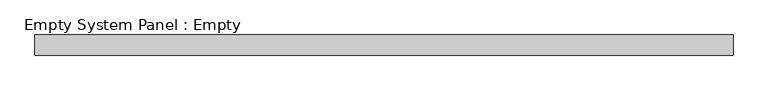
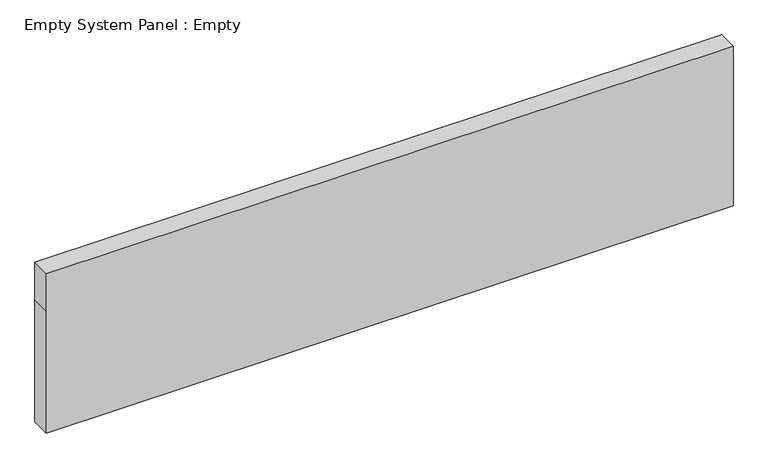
"""IFC4 building model written with IfcOpenShell, lengths in millimetres: plate geometry, Empty System Panel : Empty."""

import ifcopenshell
import ifcopenshell.guid

model = None  # the IFC model being written
_history = None  # IfcOwnerHistory: only IFC2X3 demands one
_inside = {}  # id of a spatial element -> (the spatial element, [elements in it])
_under = {}  # id of a project, library or spatial element -> (it, [spatial elements below it])
_declared = {}  # id of a project -> (the project, [libraries it declares])
_typed = {}  # id of a type object -> (the type object, [elements of that type])
_made_of = {}  # id of a material, layer set ... -> (it, [elements and type objects made of it])


def new_model(schema):
    """Start an empty IFC model of exactly this schema.

    Asked for "IFC4X3", IfcOpenShell would pick the latest addendum, in which some entities
    have other attributes; the version numbers below select the first issue.
    IFC2X3 requires an IfcOwnerHistory on every rooted entity: one is made here for all.
    """
    global model, _history
    if schema == "IFC4X3":
        model = ifcopenshell.file(schema_version=(4, 3, 0, 0))
    else:
        model = ifcopenshell.file(schema=schema)
    _inside.clear()
    _under.clear()
    _declared.clear()
    _typed.clear()
    _made_of.clear()
    _history = None
    if model.schema == "IFC2X3":
        org = make("IfcOrganization", Name="unknown")
        user = make(
            "IfcPersonAndOrganization",
            ThePerson=make("IfcPerson", FamilyName="unknown"),
            TheOrganization=org,
        )
        app = make(
            "IfcApplication",
            ApplicationDeveloper=org,
            Version="unknown",
            ApplicationFullName="unknown",
            ApplicationIdentifier="unknown",
        )
        _history = make(
            "IfcOwnerHistory",
            OwningUser=user,
            OwningApplication=app,
            ChangeAction="ADDED",
            CreationDate=0,
        )
    return model


def make(cls, **values):
    """One entity of the class cls with the attributes given. An attribute that is None is left unset."""
    return model.create_entity(
        cls, **{name: value for name, value in values.items() if value is not None}
    )


def rooted(cls, **values):
    """An entity with a GlobalId (a new one), such as an element, a storey or a relation."""
    return make(cls, GlobalId=ifcopenshell.guid.new(), OwnerHistory=_history, **values)


def si_unit(unit_type, name, prefix=None):
    """IfcSIUnit, for example si_unit("LENGTHUNIT", "METRE", prefix="MILLI")."""
    return make("IfcSIUnit", UnitType=unit_type, Prefix=prefix, Name=name)


def assignment(units):
    """IfcUnitAssignment: the units of a project."""
    return None if units is None else make("IfcUnitAssignment", Units=units)


def point(xyz):
    """IfcCartesianPoint."""
    return None if xyz is None else make("IfcCartesianPoint", Coordinates=xyz)


def direction(xyz):
    """IfcDirection."""
    return None if xyz is None else make("IfcDirection", DirectionRatios=xyz)


def frame(location, z_axis=None, x_axis=None):
    """IfcAxis2Placement3D, a coordinate frame: its origin and axes. An axis left out is left unset."""
    return make(
        "IfcAxis2Placement3D",
        Location=point(location),
        Axis=direction(z_axis),
        RefDirection=direction(x_axis),
    )


def origin():
    """The frame at (0, 0, 0) with its axes left unset."""
    return frame((0.0, 0.0, 0.0))


def place(relative_to, where):
    """IfcLocalPlacement: puts the frame where relative to a parent placement (None: the world)."""
    return make(
        "IfcLocalPlacement", PlacementRelTo=relative_to, RelativePlacement=where
    )


def context(
    kind, dimensions, precision=None, world=None, true_north=None, identifier=None
):
    """IfcGeometricRepresentationContext, for example the 3D "Model" context."""
    return make(
        "IfcGeometricRepresentationContext",
        ContextIdentifier=identifier,
        ContextType=kind,
        CoordinateSpaceDimension=dimensions,
        Precision=precision,
        WorldCoordinateSystem=world,
        TrueNorth=true_north,
    )


def project(units=None, contexts=None):
    """IfcProject with its units and contexts."""
    return rooted(
        "IfcProject",
        Name="project",
        RepresentationContexts=contexts,
        UnitsInContext=assignment(units),
    )


def spatial(cls, under=None, at=None, **own):
    """A site, building, storey or space (cls), placed at a placement, below another one or the project."""
    s = rooted(cls, ObjectPlacement=at, **own)
    if under is not None:
        _under.setdefault(under.id(), (under, []))[1].append(s)
    return s


def polyline(points):
    """IfcPolyline through the points."""
    return make("IfcPolyline", Points=[point(p) for p in points])


def outline(outer, holes=None, kind="AREA"):
    """IfcArbitraryClosedProfileDef: a profile drawn as a closed curve; with holes, ...WithVoids."""
    if holes is None:
        return make("IfcArbitraryClosedProfileDef", ProfileType=kind, OuterCurve=outer)
    return make(
        "IfcArbitraryProfileDefWithVoids",
        ProfileType=kind,
        OuterCurve=outer,
        InnerCurves=holes,
    )


def extrude(swept, where, along, depth):
    """IfcExtrudedAreaSolid: the profile swept, set in the frame where, extruded along a direction by depth."""
    return make(
        "IfcExtrudedAreaSolid",
        SweptArea=swept,
        Position=where,
        ExtrudedDirection=direction(along),
        Depth=depth,
    )


def shape(context_of_items, identifier, shape_type, items):
    """IfcShapeRepresentation: the items that make up one representation, for example the "Body"."""
    return make(
        "IfcShapeRepresentation",
        ContextOfItems=context_of_items,
        RepresentationIdentifier=identifier,
        RepresentationType=shape_type,
        Items=items,
    )


def source(mapping_origin, context_of_items, identifier, shape_type, items):
    """IfcRepresentationMap: a shape defined once, which mapped items show again and again."""
    return make(
        "IfcRepresentationMap",
        MappingOrigin=mapping_origin,
        MappedRepresentation=shape(context_of_items, identifier, shape_type, items),
    )


def transform(
    local_origin,
    x_axis=None,
    y_axis=None,
    z_axis=None,
    scale=None,
    scale2=None,
    scale3=None,
    uniform=True,
):
    """IfcCartesianTransformationOperator3D, or its non-uniform kind. x_axis, y_axis, z_axis: its Axis1, 2, 3."""
    if uniform:
        return make(
            "IfcCartesianTransformationOperator3D",
            Axis1=direction(x_axis),
            Axis2=direction(y_axis),
            LocalOrigin=point(local_origin),
            Scale=scale,
            Axis3=direction(z_axis),
        )
    return make(
        "IfcCartesianTransformationOperator3DnonUniform",
        Axis1=direction(x_axis),
        Axis2=direction(y_axis),
        LocalOrigin=point(local_origin),
        Scale=scale,
        Axis3=direction(z_axis),
        Scale2=scale2,
        Scale3=scale3,
    )


def mapped(mapping_source, mapping_target):
    """IfcMappedItem: shows the shape of a source again, moved by a transform."""
    return make(
        "IfcMappedItem", MappingSource=mapping_source, MappingTarget=mapping_target
    )


def made_of(thing, what):
    """Note that an element or type object is made of a material, layer set ...; save() writes the relation."""
    if what is not None:
        _made_of.setdefault(what.id(), (what, []))[1].append(thing)
    return thing


def element(
    cls,
    number,
    at=None,
    inside=None,
    cuts=None,
    type_object=None,
    material=None,
    context=None,
    identifier="Body",
    shape_type=None,
    held_by="IfcProductDefinitionShape",
    body=None,
    shapes=None,
    **own,
):
    """One element of the class cls, such as IfcWall. Its Tag is "e" and its number.

    at: its placement. inside: the storey or other place that contains it. cuts: it is an
    opening in that element (IfcRelVoidsElement). A single representation is given by context,
    identifier, shape_type and body (its items); several are given by shapes. held_by: the class
    of the entity that holds the representations. save() writes the other relations.
    """
    e = rooted(cls, Tag="e%d" % number, ObjectPlacement=at, **own)
    if body is not None:
        shapes = [shape(context, identifier, shape_type, body)]
    if shapes is not None:
        e.Representation = make(held_by, Representations=shapes)
    if inside is not None:
        _inside.setdefault(inside.id(), (inside, []))[1].append(e)
    if cuts is not None:
        rooted(
            "IfcRelVoidsElement", RelatingBuildingElement=cuts, RelatedOpeningElement=e
        )
    if type_object is not None:
        _typed.setdefault(type_object.id(), (type_object, []))[1].append(e)
    return made_of(e, material)


def aggregate(whole, parts):
    """IfcRelAggregates: a whole, such as a stair, and the parts it consists of."""
    return rooted("IfcRelAggregates", RelatingObject=whole, RelatedObjects=parts)


def save(model, path):
    """Write the relations noted so far, then the file.

    IfcRelAggregates (storeys below a building ...), IfcRelContainedInSpatialStructure (elements
    in a storey), IfcRelDefinesByType, IfcRelAssociatesMaterial and IfcRelDeclares: one each for
    every whole, place, type object, material and project.
    """
    for whole, parts in _under.values():
        aggregate(whole, parts)
    for where, things in _inside.values():
        rooted(
            "IfcRelContainedInSpatialStructure",
            RelatedElements=things,
            RelatingStructure=where,
        )
    for kind, things in _typed.values():
        rooted("IfcRelDefinesByType", RelatedObjects=things, RelatingType=kind)
    for what, things in _made_of.values():
        rooted("IfcRelAssociatesMaterial", RelatedObjects=things, RelatingMaterial=what)
    for by, libraries in _declared.values():
        rooted("IfcRelDeclares", RelatingContext=by, RelatedDefinitions=libraries)
    model.write(path)


def empty_system_panel_empty_c7119242(model_context):
    return source(origin(), model_context, "Body", "SweptSolid", [
        extrude(outline(polyline([(0.0, -1732.5), (0.0, 1732.5), (650.0, 1732.5), (850.0, 1732.5), (850.0, -1732.5), (650.0, -1732.5), (0.0, -1732.5)])), frame((0.0, -50.0, 0.0), z_axis=(0.0, 1.0, 0.0), x_axis=(0.0, 0.0, 1.0)), (0.0, 0.0, 1.0), 100.0),
    ])


if __name__ == "__main__":
    model = new_model("IFC4")
    model_context = context("Model", 3, world=origin())
    ifc_project = project(units=[si_unit("LENGTHUNIT", "METRE", prefix="MILLI")], contexts=[model_context])
    site = spatial("IfcSite", under=ifc_project)
    building = spatial("IfcBuilding", under=site)
    placement = place(None, origin())
    empty_system_panel_empty_shape = empty_system_panel_empty_c7119242(model_context)
    element("IfcPlate", 1, ObjectType="Empty System Panel : Empty", at=placement, inside=building, context=model_context, shape_type="MappedRepresentation", body=[
        mapped(empty_system_panel_empty_shape, transform((0.0, 0.0, 0.0), x_axis=(1.0, 0.0, 0.0), y_axis=(0.0, 1.0, 0.0), z_axis=(0.0, 0.0, 1.0))),
    ])
    save(model, "model.ifc")
